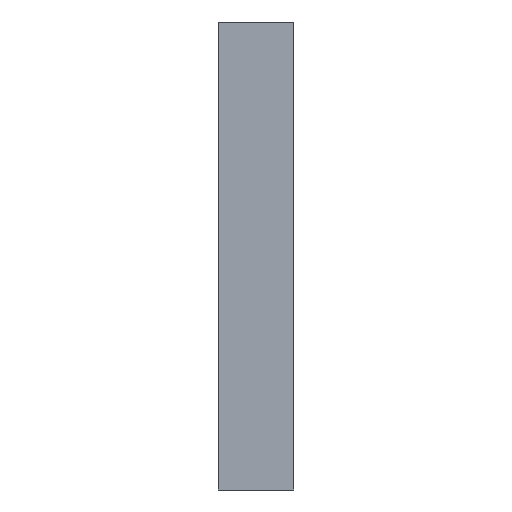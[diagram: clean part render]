
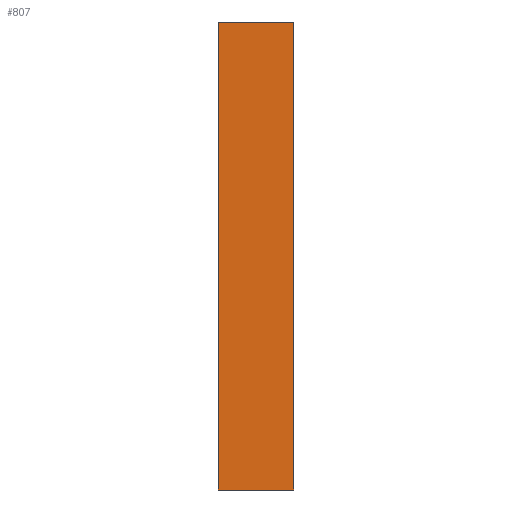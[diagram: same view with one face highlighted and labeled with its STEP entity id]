
A CAD part, left-side view. The second image highlights one B-rep face of the part: STEP entity #807.
In plain terms, the highlighted planar face has unit normal (-1, 0, 0).
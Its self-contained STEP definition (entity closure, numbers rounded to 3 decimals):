
#33 = VECTOR ( 'NONE', #695, 1000. ) ;
#34 = CARTESIAN_POINT ( 'NONE',  ( -173., 0., -298. ) ) ;
#76 = FACE_OUTER_BOUND ( 'NONE', #167, .T. ) ;
#98 = PLANE ( 'NONE',  #784 ) ;
#146 = VECTOR ( 'NONE', #169, 1000. ) ;
#159 = LINE ( 'NONE', #241, #146 ) ;
#167 = EDGE_LOOP ( 'NONE', ( #299, #432, #458, #530 ) ) ;
#169 = DIRECTION ( 'NONE',  ( 0., 0., 1. ) ) ;
#230 = CARTESIAN_POINT ( 'NONE',  ( -173., 96., 298. ) ) ;
#241 = CARTESIAN_POINT ( 'NONE',  ( -173., 96., 298. ) ) ;
#245 = DIRECTION ( 'NONE',  ( 1., 0., 0. ) ) ;
#252 = LINE ( 'NONE', #435, #342 ) ;
#299 = ORIENTED_EDGE ( 'NONE', *, *, #349, .T. ) ;
#342 = VECTOR ( 'NONE', #875, 1000. ) ;
#349 = EDGE_CURVE ( 'NONE', #933, #438, #252, .T. ) ;
#376 = DIRECTION ( 'NONE',  ( 0., 0., -1. ) ) ;
#397 = EDGE_CURVE ( 'NONE', #532, #438, #818, .T. ) ;
#432 = ORIENTED_EDGE ( 'NONE', *, *, #397, .F. ) ;
#435 = CARTESIAN_POINT ( 'NONE',  ( -173., 0., 298. ) ) ;
#438 = VERTEX_POINT ( 'NONE', #760 ) ;
#458 = ORIENTED_EDGE ( 'NONE', *, *, #751, .F. ) ;
#530 = ORIENTED_EDGE ( 'NONE', *, *, #563, .T. ) ;
#532 = VERTEX_POINT ( 'NONE', #915 ) ;
#540 = CARTESIAN_POINT ( 'NONE',  ( -173., 96., -298. ) ) ;
#563 = EDGE_CURVE ( 'NONE', #823, #933, #707, .T. ) ;
#674 = VECTOR ( 'NONE', #750, 1000. ) ;
#695 = DIRECTION ( 'NONE',  ( 0., -1., 0. ) ) ;
#707 = LINE ( 'NONE', #835, #33 ) ;
#750 = DIRECTION ( 'NONE',  ( 0., -1., 0. ) ) ;
#751 = EDGE_CURVE ( 'NONE', #823, #532, #159, .T. ) ;
#760 = CARTESIAN_POINT ( 'NONE',  ( -173., 0., 298. ) ) ;
#762 = CARTESIAN_POINT ( 'NONE',  ( -173., 96., 298. ) ) ;
#784 = AXIS2_PLACEMENT_3D ( 'NONE', #762, #245, #376 ) ;
#807 = ADVANCED_FACE ( 'NONE', ( #76 ), #98, .F. ) ;
#818 = LINE ( 'NONE', #230, #674 ) ;
#823 = VERTEX_POINT ( 'NONE', #540 ) ;
#835 = CARTESIAN_POINT ( 'NONE',  ( -173., 96., -298. ) ) ;
#875 = DIRECTION ( 'NONE',  ( 0., 0., 1. ) ) ;
#915 = CARTESIAN_POINT ( 'NONE',  ( -173., 96., 298. ) ) ;
#933 = VERTEX_POINT ( 'NONE', #34 ) ;
